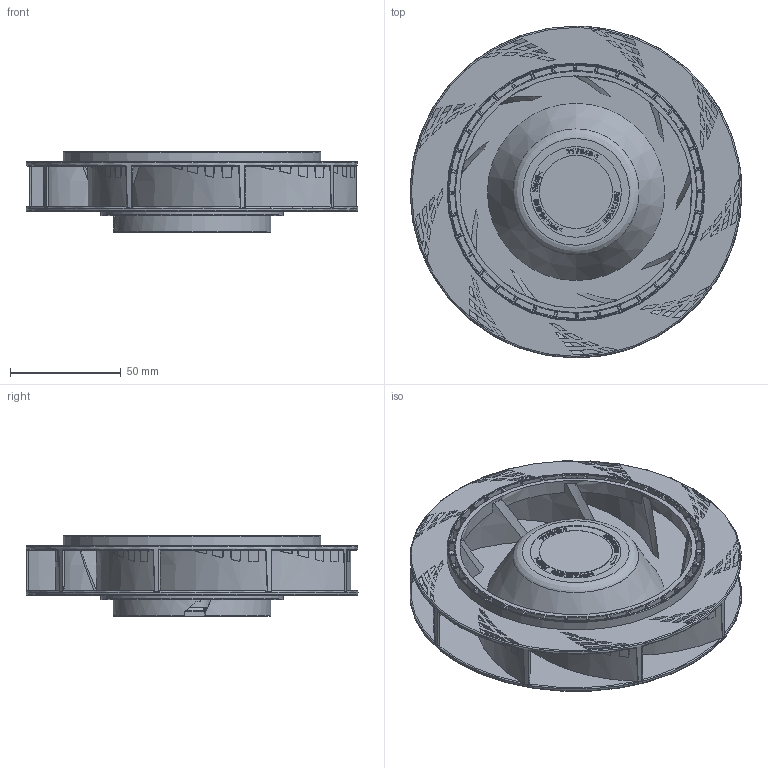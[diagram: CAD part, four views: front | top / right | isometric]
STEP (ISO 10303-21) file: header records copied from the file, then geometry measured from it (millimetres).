
FILE_DESCRIPTION( ('This file contains a STEP AP42 implementation' ,'as created by ZW3D STEP Interface translator.' ,'') ,'2;1' );
FILE_NAME( '15035燭陑儂-AY遴-3D芞紫.stp' ,'26 930.105729', (''), ('ZWCAD Software Co.'), 'Version 1.0', 'ZW3D to STEP translator', '' );
FILE_SCHEMA(('AUTOMOTIVE_DESIGN { 1 0 10303 214 1 1 1 1 }'));
Length unit declared in the file: millimetre
Products named in the file (1): 0
Bounding box: 149.98 x 149.98 x 36.35 mm (x, y, z)
Volume: 103171.9 mm3; surface area: 112340.6 mm2
Topology: 2 solids, 2 shells, 2202 faces, 5861 edges, 3846 vertices
Faces by surface type: plane 769, cone 586, bspline 368, cylinder 270, torus 209
Full cylindrical faces by diameter (mm): 3.4 x1, 4.143 x1, 4.2 x4, 5 x2, 8.1 x1, 11 x1, 13 x2, 14.8 x2, 15.4 x2, 15.43 x1, 15.8 x1, 33 x1, 41 x1, 74.4 x1, 104.949 x1
Entity records: 87852 total; most frequent: CARTESIAN_POINT 34117, ORIENTED_EDGE 11722, DIRECTION 9310, EDGE_CURVE 5861, VERTEX_POINT 3846, AXIS2_PLACEMENT_3D 3657, EDGE_LOOP 2415, FACE_OUTER_BOUND 2202
